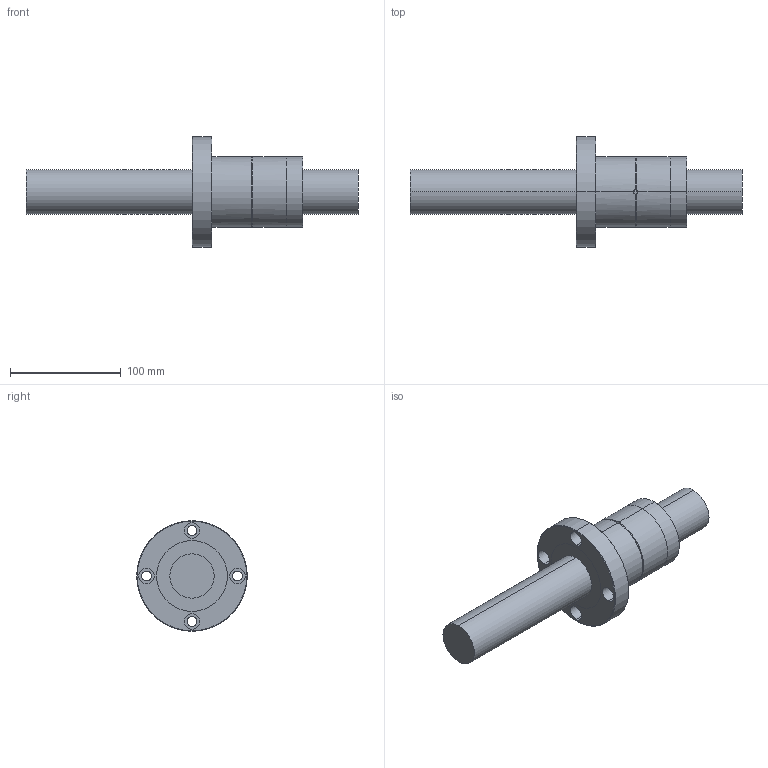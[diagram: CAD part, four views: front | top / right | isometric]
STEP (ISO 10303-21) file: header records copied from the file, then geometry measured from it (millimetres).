
FILE_DESCRIPTION (( 'STEP AP203' ), '1' );
FILE_NAME ('KLF040T4.STEP', '2023-08-17T07:28:46', ( '' ), ( '' ), 'SwSTEP 2.0', 'SolidWorks 2022', '' );
FILE_SCHEMA (( 'CONFIG_CONTROL_DESIGN' ));
Length unit declared in the file: millimetre
Products named in the file (5): 塑胶2^KLF040T4; 主体^KLF040T4; KLF040T4; 塑胶1^KLF040T4; 零件6^KLF040T4
Assembly tree (4 placements, depth 2):
  KLF040T4
    主体^KLF040T4
    塑胶1^KLF040T4
    塑胶2^KLF040T4
    零件6^KLF040T4
Bounding box: 300 x 100 x 100 mm (x, y, z)
Volume: 647169 mm3; surface area: 104356.4 mm2
Topology: 4 solids, 4 shells, 62 faces, 144 edges, 92 vertices
Faces by surface type: cylinder 40, plane 14, torus 4, cone 4
Entity records: 2529 total; most frequent: CARTESIAN_POINT 525, DIRECTION 340, ORIENTED_EDGE 288, AXIS2_PLACEMENT_3D 147, EDGE_CURVE 144, VERTEX_POINT 92, EDGE_LOOP 82, CIRCLE 78
